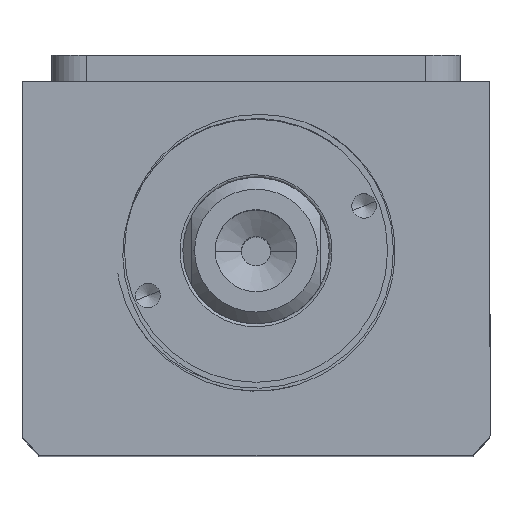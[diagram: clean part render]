
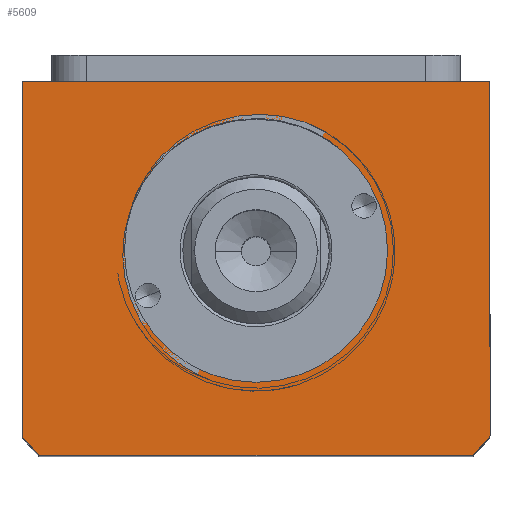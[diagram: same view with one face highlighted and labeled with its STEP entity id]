
A CAD part, top view. The second image highlights one B-rep face of the part: STEP entity #5609.
In plain terms, the highlighted planar face has unit normal (0, 0, 1).
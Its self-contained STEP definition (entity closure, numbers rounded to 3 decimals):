
#207 = CARTESIAN_POINT ( 'NONE',  ( -40., 32., 145. ) ) ;
#264 = VERTEX_POINT ( 'NONE', #4222 ) ;
#268 = VERTEX_POINT ( 'NONE', #8843 ) ;
#304 = VERTEX_POINT ( 'NONE', #8254 ) ;
#476 = ORIENTED_EDGE ( 'NONE', *, *, #8008, .T. ) ;
#646 = EDGE_CURVE ( 'NONE', #268, #264, #3244, .T. ) ;
#744 = DIRECTION ( 'NONE',  ( 1., 0., 0. ) ) ;
#965 = ORIENTED_EDGE ( 'NONE', *, *, #6862, .T. ) ;
#990 = CIRCLE ( 'NONE', #1095, 22.5 ) ;
#1065 = ORIENTED_EDGE ( 'NONE', *, *, #4218, .T. ) ;
#1087 = AXIS2_PLACEMENT_3D ( 'NONE', #3004, #8596, #3829 ) ;
#1095 = AXIS2_PLACEMENT_3D ( 'NONE', #6112, #1319, #6915 ) ;
#1230 = ORIENTED_EDGE ( 'NONE', *, *, #646, .T. ) ;
#1319 = DIRECTION ( 'NONE',  ( 0., 0., 1. ) ) ;
#1777 = CARTESIAN_POINT ( 'NONE',  ( 0., 3., 145. ) ) ;
#1956 = EDGE_CURVE ( 'NONE', #4197, #7829, #990, .T. ) ;
#2231 = PLANE ( 'NONE',  #5635 ) ;
#2583 = DIRECTION ( 'NONE',  ( 1., 0., 0. ) ) ;
#2731 = VECTOR ( 'NONE', #9797, 1000. ) ;
#2849 = DIRECTION ( 'NONE',  ( 0., 0., 1. ) ) ;
#2928 = LINE ( 'NONE', #9527, #5055 ) ;
#2932 = VERTEX_POINT ( 'NONE', #6178 ) ;
#2975 = CIRCLE ( 'NONE', #9574, 51. ) ;
#3004 = CARTESIAN_POINT ( 'NONE',  ( 0., 3., 145. ) ) ;
#3022 = CIRCLE ( 'NONE', #1087, 51. ) ;
#3027 = DIRECTION ( 'NONE',  ( 1., 0., 0. ) ) ;
#3244 = LINE ( 'NONE', #4174, #9390 ) ;
#3291 = ORIENTED_EDGE ( 'NONE', *, *, #8879, .T. ) ;
#3368 = CARTESIAN_POINT ( 'NONE',  ( -22.5, 3., 145. ) ) ;
#3811 = FACE_OUTER_BOUND ( 'NONE', #4821, .T. ) ;
#3829 = DIRECTION ( 'NONE',  ( 1., 0., 0. ) ) ;
#3962 = DIRECTION ( 'NONE',  ( 0., -1., 0. ) ) ;
#4151 = EDGE_CURVE ( 'NONE', #10187, #2932, #8165, .T. ) ;
#4174 = CARTESIAN_POINT ( 'NONE',  ( -40., -32., 145. ) ) ;
#4197 = VERTEX_POINT ( 'NONE', #8729 ) ;
#4218 = EDGE_CURVE ( 'NONE', #4295, #304, #2928, .T. ) ;
#4222 = CARTESIAN_POINT ( 'NONE',  ( 37.094, -32., 145. ) ) ;
#4228 = ORIENTED_EDGE ( 'NONE', *, *, #9274, .F. ) ;
#4258 = CIRCLE ( 'NONE', #8848, 22.5 ) ;
#4295 = VERTEX_POINT ( 'NONE', #8024 ) ;
#4701 = DIRECTION ( 'NONE',  ( 0., 1., 0. ) ) ;
#4821 = EDGE_LOOP ( 'NONE', ( #1065, #965, #1230, #3291, #6861, #476 ) ) ;
#5055 = VECTOR ( 'NONE', #3962, 1000. ) ;
#5609 = ADVANCED_FACE ( 'NONE', ( #5671, #3811 ), #2231, .T. ) ;
#5635 = AXIS2_PLACEMENT_3D ( 'NONE', #6237, #7823, #3027 ) ;
#5671 = FACE_BOUND ( 'NONE', #8882, .T. ) ;
#6079 = VECTOR ( 'NONE', #4701, 1000. ) ;
#6110 = ORIENTED_EDGE ( 'NONE', *, *, #1956, .F. ) ;
#6112 = CARTESIAN_POINT ( 'NONE',  ( 0., 3., 145. ) ) ;
#6178 = CARTESIAN_POINT ( 'NONE',  ( 40., 32., 145. ) ) ;
#6237 = CARTESIAN_POINT ( 'NONE',  ( 0., 0., 145. ) ) ;
#6861 = ORIENTED_EDGE ( 'NONE', *, *, #4151, .T. ) ;
#6862 = EDGE_CURVE ( 'NONE', #304, #268, #3022, .T. ) ;
#6915 = DIRECTION ( 'NONE',  ( 1., 0., 0. ) ) ;
#7005 = LINE ( 'NONE', #207, #2731 ) ;
#7390 = DIRECTION ( 'NONE',  ( 0., 0., 1. ) ) ;
#7651 = CARTESIAN_POINT ( 'NONE',  ( 0., 3., 145. ) ) ;
#7823 = DIRECTION ( 'NONE',  ( 0., 0., 1. ) ) ;
#7829 = VERTEX_POINT ( 'NONE', #3368 ) ;
#8008 = EDGE_CURVE ( 'NONE', #2932, #4295, #7005, .T. ) ;
#8024 = CARTESIAN_POINT ( 'NONE',  ( -40., 32., 145. ) ) ;
#8165 = LINE ( 'NONE', #10248, #6079 ) ;
#8254 = CARTESIAN_POINT ( 'NONE',  ( -40., -28.639, 145. ) ) ;
#8444 = DIRECTION ( 'NONE',  ( 1., 0., 0. ) ) ;
#8596 = DIRECTION ( 'NONE',  ( 0., 0., 1. ) ) ;
#8710 = CARTESIAN_POINT ( 'NONE',  ( 40., -28.639, 145. ) ) ;
#8729 = CARTESIAN_POINT ( 'NONE',  ( 22.5, 3., 145. ) ) ;
#8843 = CARTESIAN_POINT ( 'NONE',  ( -37.094, -32., 145. ) ) ;
#8848 = AXIS2_PLACEMENT_3D ( 'NONE', #1777, #7390, #2583 ) ;
#8879 = EDGE_CURVE ( 'NONE', #264, #10187, #2975, .T. ) ;
#8882 = EDGE_LOOP ( 'NONE', ( #6110, #4228 ) ) ;
#9274 = EDGE_CURVE ( 'NONE', #7829, #4197, #4258, .T. ) ;
#9390 = VECTOR ( 'NONE', #744, 1000. ) ;
#9527 = CARTESIAN_POINT ( 'NONE',  ( -40., 32., 145. ) ) ;
#9574 = AXIS2_PLACEMENT_3D ( 'NONE', #7651, #2849, #8444 ) ;
#9797 = DIRECTION ( 'NONE',  ( -1., 0., 0. ) ) ;
#10187 = VERTEX_POINT ( 'NONE', #8710 ) ;
#10248 = CARTESIAN_POINT ( 'NONE',  ( 40., 32., 145. ) ) ;
